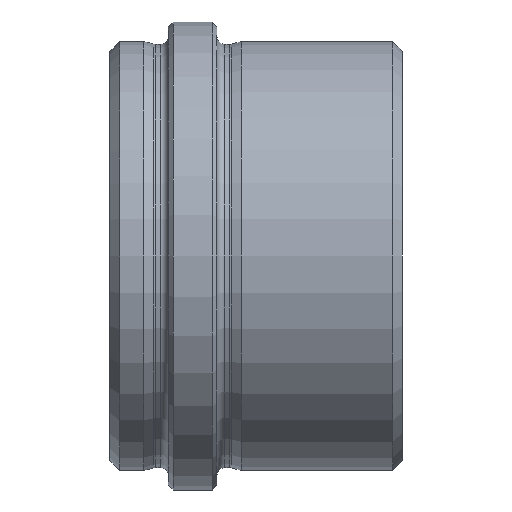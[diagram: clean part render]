
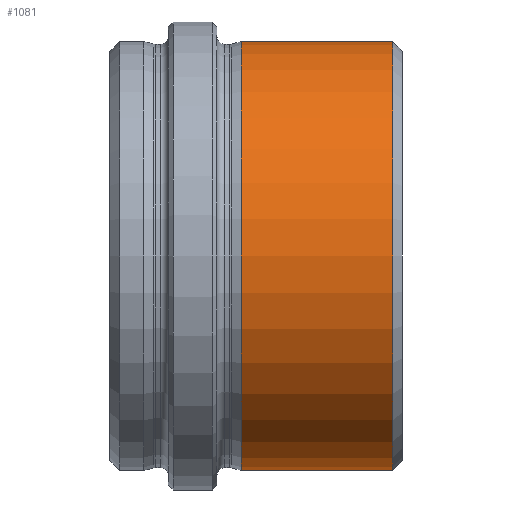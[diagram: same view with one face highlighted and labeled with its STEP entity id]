
A CAD part, front view. The second image highlights one B-rep face of the part: STEP entity #1081.
In plain terms, the highlighted cylindrical face has radius 22 mm (diameter 44 mm), a partial arc.
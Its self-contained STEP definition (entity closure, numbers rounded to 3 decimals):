
#5 = DIRECTION ( 'NONE',  ( -1., 0., 0. ) ) ;
#22 = VECTOR ( 'NONE', #312, 1000. ) ;
#31 = CYLINDRICAL_SURFACE ( 'NONE', #799, 22. ) ;
#84 = FACE_OUTER_BOUND ( 'NONE', #704, .T. ) ;
#94 = VERTEX_POINT ( 'NONE', #383 ) ;
#111 = CARTESIAN_POINT ( 'NONE',  ( 0., 0., 22. ) ) ;
#116 = AXIS2_PLACEMENT_3D ( 'NONE', #804, #128, #206 ) ;
#121 = ORIENTED_EDGE ( 'NONE', *, *, #368, .T. ) ;
#128 = DIRECTION ( 'NONE',  ( -1., 0., 0. ) ) ;
#206 = DIRECTION ( 'NONE',  ( 0., 0., 1. ) ) ;
#248 = CIRCLE ( 'NONE', #116, 22. ) ;
#312 = DIRECTION ( 'NONE',  ( -1., 0., 0. ) ) ;
#334 = VERTEX_POINT ( 'NONE', #1067 ) ;
#352 = VERTEX_POINT ( 'NONE', #470 ) ;
#368 = EDGE_CURVE ( 'NONE', #334, #94, #928, .T. ) ;
#383 = CARTESIAN_POINT ( 'NONE',  ( 13.5, 0., 22. ) ) ;
#436 = CARTESIAN_POINT ( 'NONE',  ( 0., 0., 0. ) ) ;
#440 = DIRECTION ( 'NONE',  ( -1., 0., 0. ) ) ;
#470 = CARTESIAN_POINT ( 'NONE',  ( 29., 0., -22. ) ) ;
#484 = CARTESIAN_POINT ( 'NONE',  ( 13.5, 0., -22. ) ) ;
#511 = EDGE_CURVE ( 'NONE', #741, #94, #1003, .T. ) ;
#590 = EDGE_CURVE ( 'NONE', #352, #334, #248, .T. ) ;
#610 = DIRECTION ( 'NONE',  ( 0., 0., 1. ) ) ;
#647 = ORIENTED_EDGE ( 'NONE', *, *, #854, .F. ) ;
#689 = AXIS2_PLACEMENT_3D ( 'NONE', #716, #699, #1034 ) ;
#699 = DIRECTION ( 'NONE',  ( -1., 0., 0. ) ) ;
#704 = EDGE_LOOP ( 'NONE', ( #647, #1066, #121, #1036 ) ) ;
#710 = VECTOR ( 'NONE', #5, 1000. ) ;
#716 = CARTESIAN_POINT ( 'NONE',  ( 13.5, 0., 0. ) ) ;
#741 = VERTEX_POINT ( 'NONE', #484 ) ;
#744 = CARTESIAN_POINT ( 'NONE',  ( 0., 0., -22. ) ) ;
#799 = AXIS2_PLACEMENT_3D ( 'NONE', #436, #440, #610 ) ;
#804 = CARTESIAN_POINT ( 'NONE',  ( 29., 0., 0. ) ) ;
#854 = EDGE_CURVE ( 'NONE', #352, #741, #908, .T. ) ;
#908 = LINE ( 'NONE', #744, #22 ) ;
#928 = LINE ( 'NONE', #111, #710 ) ;
#1003 = CIRCLE ( 'NONE', #689, 22. ) ;
#1034 = DIRECTION ( 'NONE',  ( 0., 0., 1. ) ) ;
#1036 = ORIENTED_EDGE ( 'NONE', *, *, #511, .F. ) ;
#1066 = ORIENTED_EDGE ( 'NONE', *, *, #590, .T. ) ;
#1067 = CARTESIAN_POINT ( 'NONE',  ( 29., 0., 22. ) ) ;
#1081 = ADVANCED_FACE ( 'NONE', ( #84 ), #31, .T. ) ;
